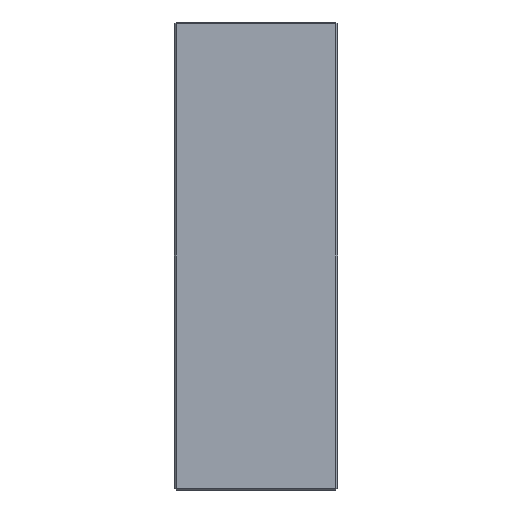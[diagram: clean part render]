
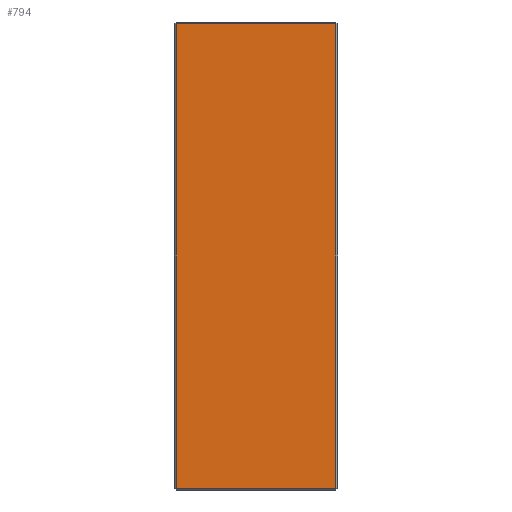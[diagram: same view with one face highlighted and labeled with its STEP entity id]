
A CAD part, left-side view. The second image highlights one B-rep face of the part: STEP entity #794.
In plain terms, the highlighted planar face has unit normal (-1, 0, 0).
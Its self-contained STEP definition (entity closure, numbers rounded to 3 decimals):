
#1 = CARTESIAN_POINT ( 'NONE',  ( -123., 1., 122. ) ) ;
#31 = VECTOR ( 'NONE', #1936, 1000. ) ;
#58 = LINE ( 'NONE', #618, #31 ) ;
#78 = LINE ( 'NONE', #1907, #454 ) ;
#109 = EDGE_CURVE ( 'NONE', #1901, #266, #736, .T. ) ;
#113 = DIRECTION ( 'NONE',  ( 0., 0., -1. ) ) ;
#142 = VERTEX_POINT ( 'NONE', #543 ) ;
#172 = FACE_OUTER_BOUND ( 'NONE', #395, .T. ) ;
#190 = ORIENTED_EDGE ( 'NONE', *, *, #683, .T. ) ;
#266 = VERTEX_POINT ( 'NONE', #1256 ) ;
#269 = CARTESIAN_POINT ( 'NONE',  ( -123., 86., -122. ) ) ;
#275 = DIRECTION ( 'NONE',  ( 0., -1., 0. ) ) ;
#395 = EDGE_LOOP ( 'NONE', ( #841, #886, #1797, #190 ) ) ;
#454 = VECTOR ( 'NONE', #1374, 1000. ) ;
#480 = VERTEX_POINT ( 'NONE', #1 ) ;
#543 = CARTESIAN_POINT ( 'NONE',  ( -123., 85., 122. ) ) ;
#558 = VECTOR ( 'NONE', #1299, 1000. ) ;
#590 = LINE ( 'NONE', #1657, #558 ) ;
#618 = CARTESIAN_POINT ( 'NONE',  ( -123., 85., 123. ) ) ;
#673 = AXIS2_PLACEMENT_3D ( 'NONE', #1627, #1364, #113 ) ;
#683 = EDGE_CURVE ( 'NONE', #266, #480, #590, .T. ) ;
#708 = VECTOR ( 'NONE', #275, 1000. ) ;
#736 = LINE ( 'NONE', #269, #708 ) ;
#794 = ADVANCED_FACE ( 'NONE', ( #172 ), #1512, .F. ) ;
#841 = ORIENTED_EDGE ( 'NONE', *, *, #1118, .T. ) ;
#886 = ORIENTED_EDGE ( 'NONE', *, *, #1023, .T. ) ;
#1023 = EDGE_CURVE ( 'NONE', #142, #1901, #58, .T. ) ;
#1118 = EDGE_CURVE ( 'NONE', #480, #142, #78, .T. ) ;
#1256 = CARTESIAN_POINT ( 'NONE',  ( -123., 1., -122. ) ) ;
#1299 = DIRECTION ( 'NONE',  ( 0., 0., 1. ) ) ;
#1364 = DIRECTION ( 'NONE',  ( 1., 0., 0. ) ) ;
#1374 = DIRECTION ( 'NONE',  ( 0., 1., 0. ) ) ;
#1512 = PLANE ( 'NONE',  #673 ) ;
#1627 = CARTESIAN_POINT ( 'NONE',  ( -123., 86., 123. ) ) ;
#1657 = CARTESIAN_POINT ( 'NONE',  ( -123., 1., 123. ) ) ;
#1797 = ORIENTED_EDGE ( 'NONE', *, *, #109, .T. ) ;
#1872 = CARTESIAN_POINT ( 'NONE',  ( -123., 85., -122. ) ) ;
#1901 = VERTEX_POINT ( 'NONE', #1872 ) ;
#1907 = CARTESIAN_POINT ( 'NONE',  ( -123., 86., 122. ) ) ;
#1936 = DIRECTION ( 'NONE',  ( 0., 0., -1. ) ) ;
